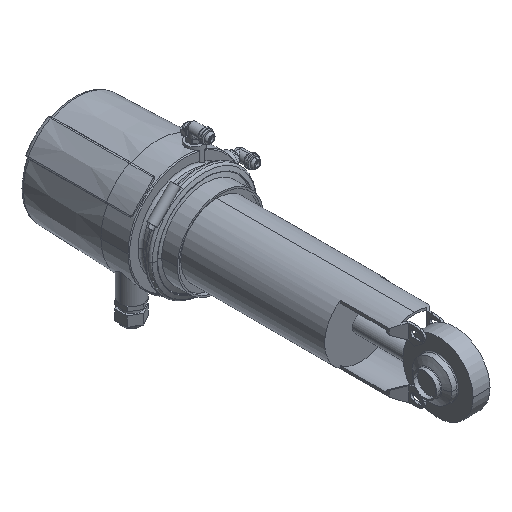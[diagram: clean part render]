
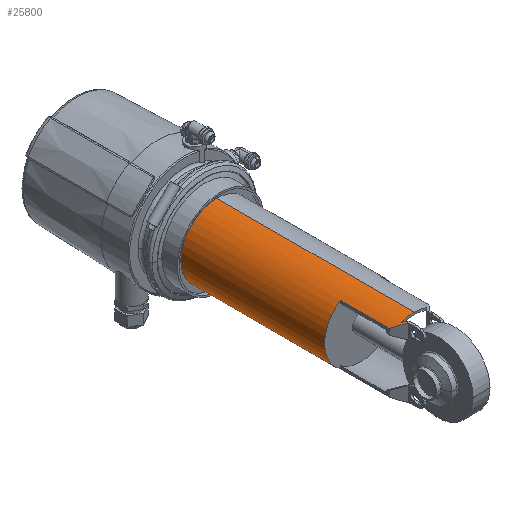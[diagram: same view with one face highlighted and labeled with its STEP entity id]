
A CAD part, isometric view. The second image highlights one B-rep face of the part: STEP entity #25800.
In plain terms, the highlighted cylindrical face has radius 42.5 mm (diameter 85 mm), a partial arc.
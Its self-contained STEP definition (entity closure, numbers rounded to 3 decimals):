
#15720=CARTESIAN_POINT('',(-129.082,56.217,
35.075));
#15730=VERTEX_POINT('',#15720);
#16170=CARTESIAN_POINT('',(-129.082,114.21,
35.075));
#16180=VERTEX_POINT('',#16170);
#16210=CARTESIAN_POINT('',(-129.082,311.072,
35.075));
#16220=DIRECTION('',(0.,-1.,0.));
#16230=VECTOR('',#16220,1.);
#16240=LINE('',#16210,#16230);
#16250=EDGE_CURVE('',#16180,#15730,#16240,.T.);
#22050=CARTESIAN_POINT('',(-120.14,50.81,
-39.743));
#22060=VERTEX_POINT('',#22050);
#22090=CARTESIAN_POINT('',(-105.082,35.752,
0.));
#22100=DIRECTION('',(0.707,0.707,0.));
#22110=DIRECTION('',(0.707,-0.707,0.));
#22120=AXIS2_PLACEMENT_3D('',#22090,#22100,#22110);
#22130=ELLIPSE('',#22120,60.104,42.5);
#22140=CARTESIAN_POINT('',(-115.082,45.752,
-41.307));
#22150=VERTEX_POINT('',#22140);
#22160=EDGE_CURVE('',#22150,#22060,#22130,.T.);
#23900=CARTESIAN_POINT('',(-105.082,50.81,
0.));
#23910=DIRECTION('',(0.,-1.,0.));
#23920=DIRECTION('',(0.,0.,-1.));
#23930=AXIS2_PLACEMENT_3D('',#23900,#23910,#23920);
#23940=CIRCLE('',#23930,42.5);
#23950=CARTESIAN_POINT('',(-105.082,50.81,-42.5));
#23960=VERTEX_POINT('',#23950);
#23990=EDGE_CURVE('',#22060,#23960,#23940,.T.);
#24150=CARTESIAN_POINT('',(-115.082,311.072,
-41.307));
#24160=DIRECTION('',(0.,-1.,0.));
#24170=VECTOR('',#24160,1.);
#24180=LINE('',#24150,#24170);
#24190=CARTESIAN_POINT('',(-115.082,42.217,
-41.307));
#24200=VERTEX_POINT('',#24190);
#24210=EDGE_CURVE('',#22150,#24200,#24180,.T.);
#24610=CARTESIAN_POINT('',(-105.082,114.21,
0.));
#24620=DIRECTION('',(0.,-1.,0.));
#24630=DIRECTION('',(0.,0.,-1.));
#24640=AXIS2_PLACEMENT_3D('',#24610,#24620,#24630);
#24650=CYLINDRICAL_SURFACE('',#24640,42.5);
#24660=CARTESIAN_POINT('',(-105.082,35.752,
0.));
#24670=DIRECTION('',(0.707,0.707,0.));
#24680=DIRECTION('',(-0.707,0.707,0.));
#24690=AXIS2_PLACEMENT_3D('',#24660,#24670,#24680);
#24700=ELLIPSE('',#24690,60.104,42.5);
#24710=CARTESIAN_POINT('',(-120.14,50.81,
39.743));
#24720=VERTEX_POINT('',#24710);
#24730=CARTESIAN_POINT('',(-117.582,48.252,
40.62));
#24740=VERTEX_POINT('',#24730);
#24750=EDGE_CURVE('',#24720,#24740,#24700,.T.);
#24760=ORIENTED_EDGE('',*,*,#24750,.F.);
#24770=CARTESIAN_POINT('',(-117.582,311.072,
40.62));
#24780=DIRECTION('',(0.,-1.,0.));
#24790=VECTOR('',#24780,1.);
#24800=LINE('',#24770,#24790);
#24810=CARTESIAN_POINT('',(-117.582,44.717,
40.62));
#24820=VERTEX_POINT('',#24810);
#24830=EDGE_CURVE('',#24740,#24820,#24800,.T.);
#24840=ORIENTED_EDGE('',*,*,#24830,.F.);
#24850=CARTESIAN_POINT('',(-105.082,32.217,
0.));
#24860=DIRECTION('',(-0.707,-0.707,0.));
#24870=DIRECTION('',(0.707,-0.707,0.));
#24880=AXIS2_PLACEMENT_3D('',#24850,#24860,#24870);
#24890=ELLIPSE('',#24880,60.104,42.5);
#24900=EDGE_CURVE('',#24820,#15730,#24890,.T.);
#24910=ORIENTED_EDGE('',*,*,#24900,.F.);
#24920=ORIENTED_EDGE('',*,*,#16250,.T.);
#24930=CARTESIAN_POINT('',(-105.082,114.21,
0.));
#24940=DIRECTION('',(0.,-1.,0.));
#24950=DIRECTION('',(0.,0.,1.));
#24960=AXIS2_PLACEMENT_3D('',#24930,#24940,#24950);
#24970=CIRCLE('',#24960,42.5);
#24980=CARTESIAN_POINT('',(-129.082,114.21,
-35.075));
#24990=VERTEX_POINT('',#24980);
#25000=EDGE_CURVE('',#16180,#24990,#24970,.T.);
#25010=ORIENTED_EDGE('',*,*,#25000,.F.);
#25020=CARTESIAN_POINT('',(-129.082,311.072,
-35.075));
#25030=DIRECTION('',(0.,-1.,0.));
#25040=VECTOR('',#25030,1.);
#25050=LINE('',#25020,#25040);
#25060=CARTESIAN_POINT('',(-129.082,56.217,
-35.075));
#25070=VERTEX_POINT('',#25060);
#25080=EDGE_CURVE('',#24990,#25070,#25050,.T.);
#25090=ORIENTED_EDGE('',*,*,#25080,.F.);
#25100=CARTESIAN_POINT('',(-105.082,32.217,
0.));
#25110=DIRECTION('',(0.707,0.707,0.));
#25120=DIRECTION('',(0.707,-0.707,0.));
#25130=AXIS2_PLACEMENT_3D('',#25100,#25110,#25120);
#25140=ELLIPSE('',#25130,60.104,42.5);
#25150=CARTESIAN_POINT('',(-117.582,44.717,
-40.62));
#25160=VERTEX_POINT('',#25150);
#25170=EDGE_CURVE('',#25160,#25070,#25140,.T.);
#25180=ORIENTED_EDGE('',*,*,#25170,.T.);
#25190=CARTESIAN_POINT('',(-117.582,311.072,
-40.62));
#25200=DIRECTION('',(0.,-1.,0.));
#25210=VECTOR('',#25200,1.);
#25220=LINE('',#25190,#25210);
#25230=CARTESIAN_POINT('',(-117.582,38.262,
-40.62));
#25240=VERTEX_POINT('',#25230);
#25250=EDGE_CURVE('',#25160,#25240,#25220,.T.);
#25260=ORIENTED_EDGE('',*,*,#25250,.F.);
#25270=CARTESIAN_POINT('',(-105.082,-318.257,
0.));
#25280=DIRECTION('',(0.,-0.113,-0.994));
#25290=DIRECTION('',(0.,0.994,-0.113));
#25300=AXIS2_PLACEMENT_3D('',#25270,#25280,#25290);
#25310=ELLIPSE('',#25300,375.431,42.5);
#25320=CARTESIAN_POINT('',(-115.73,42.864,
-41.145));
#25330=VERTEX_POINT('',#25320);
#25340=EDGE_CURVE('',#25240,#25330,#25310,.T.);
#25350=ORIENTED_EDGE('',*,*,#25340,.F.);
#25360=CARTESIAN_POINT('',(-105.082,32.217,
0.));
#25370=DIRECTION('',(-0.707,-0.707,0.));
#25380=DIRECTION('',(-0.707,0.707,0.));
#25390=AXIS2_PLACEMENT_3D('',#25360,#25370,#25380);
#25400=ELLIPSE('',#25390,60.104,42.5);
#25410=EDGE_CURVE('',#25330,#24200,#25400,.T.);
#25420=ORIENTED_EDGE('',*,*,#25410,.F.);
#25430=ORIENTED_EDGE('',*,*,#24210,.T.);
#25440=ORIENTED_EDGE('',*,*,#22160,.F.);
#25450=ORIENTED_EDGE('',*,*,#23990,.F.);
#25460=CARTESIAN_POINT('',(-105.082,114.21,-42.5));
#25470=DIRECTION('',(0.,-1.,0.));
#25480=VECTOR('',#25470,1.);
#25490=LINE('',#25460,#25480);
#25500=CARTESIAN_POINT('',(-105.082,284.21,-42.5));
#25510=VERTEX_POINT('',#25500);
#25520=EDGE_CURVE('',#25510,#23960,#25490,.T.);
#25530=ORIENTED_EDGE('',*,*,#25520,.T.);
#25540=CARTESIAN_POINT('',(-105.082,284.21,
0.));
#25550=DIRECTION('',(0.,-1.,0.));
#25560=DIRECTION('',(0.,0.,-1.));
#25570=AXIS2_PLACEMENT_3D('',#25540,#25550,#25560);
#25580=CIRCLE('',#25570,42.5);
#25590=CARTESIAN_POINT('',(-105.082,284.21,42.5));
#25600=VERTEX_POINT('',#25590);
#25610=EDGE_CURVE('',#25600,#25510,#25580,.T.);
#25620=ORIENTED_EDGE('',*,*,#25610,.T.);
#25630=CARTESIAN_POINT('',(-105.082,114.21,42.5));
#25640=DIRECTION('',(0.,-1.,0.));
#25650=VECTOR('',#25640,1.);
#25660=LINE('',#25630,#25650);
#25670=CARTESIAN_POINT('',(-105.082,50.81,42.5));
#25680=VERTEX_POINT('',#25670);
#25690=EDGE_CURVE('',#25600,#25680,#25660,.T.);
#25700=ORIENTED_EDGE('',*,*,#25690,.F.);
#25710=CARTESIAN_POINT('',(-105.082,50.81,
0.));
#25720=DIRECTION('',(0.,-1.,0.));
#25730=DIRECTION('',(0.,0.,1.));
#25740=AXIS2_PLACEMENT_3D('',#25710,#25720,#25730);
#25750=CIRCLE('',#25740,42.5);
#25760=EDGE_CURVE('',#25680,#24720,#25750,.T.);
#25770=ORIENTED_EDGE('',*,*,#25760,.F.);
#25780=EDGE_LOOP('',(#25770,#25700,#25620,#25530,#25450,#25440,#25430,
#25420,#25350,#25260,#25180,#25090,#25010,#24920,#24910,#24840,#24760));
#25790=FACE_OUTER_BOUND('',#25780,.T.);
#25800=ADVANCED_FACE('',(#25790),#24650,.T.);
